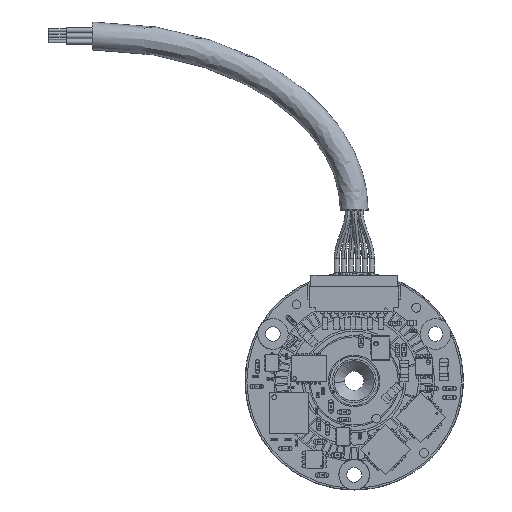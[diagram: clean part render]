
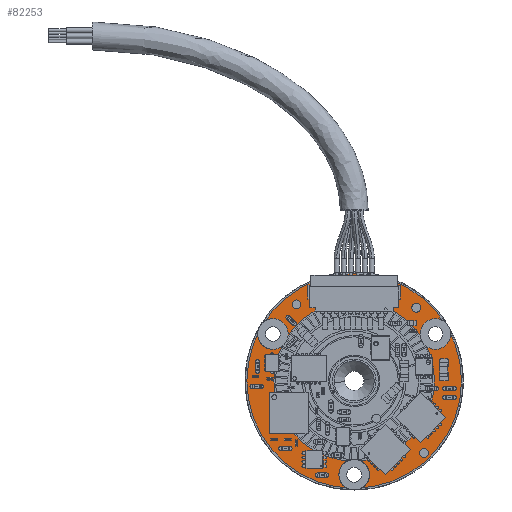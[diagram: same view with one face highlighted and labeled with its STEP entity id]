
A CAD part, front view. The second image highlights one B-rep face of the part: STEP entity #82253.
In plain terms, the highlighted planar face has unit normal (0, 1, 0).
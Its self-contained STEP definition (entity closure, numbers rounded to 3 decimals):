
#437 = CARTESIAN_POINT ( 'NONE',  ( 0., 2.17, 0. ) ) ;
#1159 = EDGE_LOOP ( 'NONE', ( #97126, #242628 ) ) ;
#6952 = EDGE_CURVE ( 'NONE', #189571, #253114, #309682, .T. ) ;
#7447 = DIRECTION ( 'NONE',  ( 0., 1., 0. ) ) ;
#8297 = FACE_BOUND ( 'NONE', #26257, .T. ) ;
#11054 = ORIENTED_EDGE ( 'NONE', *, *, #191313, .F. ) ;
#15512 = FACE_BOUND ( 'NONE', #153358, .T. ) ;
#19787 = EDGE_CURVE ( 'NONE', #334818, #306716, #46620, .T. ) ;
#20990 = VERTEX_POINT ( 'NONE', #204977 ) ;
#24848 = ORIENTED_EDGE ( 'NONE', *, *, #83299, .F. ) ;
#26257 = EDGE_LOOP ( 'NONE', ( #24848, #227710 ) ) ;
#31840 = CARTESIAN_POINT ( 'NONE',  ( 9.31, 2.17, 6.225 ) ) ;
#33127 = CARTESIAN_POINT ( 'NONE',  ( 0., 2.17, -10.75 ) ) ;
#35878 = CARTESIAN_POINT ( 'NONE',  ( 0., 2.17, -12.3 ) ) ;
#37442 = CARTESIAN_POINT ( 'NONE',  ( 0., 2.17, 0. ) ) ;
#39577 = CIRCLE ( 'NONE', #319441, 0.85 ) ;
#40810 = AXIS2_PLACEMENT_3D ( 'NONE', #53620, #360110, #194075 ) ;
#46620 = CIRCLE ( 'NONE', #128230, 0.85 ) ;
#48301 = DIRECTION ( 'NONE',  ( 0., 1., 0. ) ) ;
#52606 = CIRCLE ( 'NONE', #40810, 12.3 ) ;
#53620 = CARTESIAN_POINT ( 'NONE',  ( 0., 2.17, 0. ) ) ;
#55234 = AXIS2_PLACEMENT_3D ( 'NONE', #292563, #343649, #290701 ) ;
#60453 = AXIS2_PLACEMENT_3D ( 'NONE', #257379, #7447, #142654 ) ;
#60671 = DIRECTION ( 'NONE',  ( 0., 0., 1. ) ) ;
#61130 = DIRECTION ( 'NONE',  ( 0., 1., 0. ) ) ;
#63073 = CARTESIAN_POINT ( 'NONE',  ( -9.31, 2.17, 6.225 ) ) ;
#64892 = PLANE ( 'NONE',  #293276 ) ;
#66542 = EDGE_CURVE ( 'NONE', #20990, #341879, #202242, .T. ) ;
#73945 = CARTESIAN_POINT ( 'NONE',  ( -9.31, 2.17, 5.375 ) ) ;
#74179 = EDGE_CURVE ( 'NONE', #169406, #286798, #52606, .T. ) ;
#74516 = AXIS2_PLACEMENT_3D ( 'NONE', #249557, #273310, #297225 ) ;
#78560 = ORIENTED_EDGE ( 'NONE', *, *, #302005, .T. ) ;
#80865 = DIRECTION ( 'NONE',  ( 0., 0., 1. ) ) ;
#82253 = ADVANCED_FACE ( 'NONE', ( #347595, #99434, #8297, #263575, #15512 ), #64892, .T. ) ;
#83299 = EDGE_CURVE ( 'NONE', #306716, #334818, #200774, .T. ) ;
#97126 = ORIENTED_EDGE ( 'NONE', *, *, #309460, .F. ) ;
#99434 = FACE_BOUND ( 'NONE', #1159, .T. ) ;
#103735 = ORIENTED_EDGE ( 'NONE', *, *, #234724, .F. ) ;
#112591 = ORIENTED_EDGE ( 'NONE', *, *, #74179, .T. ) ;
#120182 = CARTESIAN_POINT ( 'NONE',  ( 0., 2.17, -9.9 ) ) ;
#126528 = EDGE_CURVE ( 'NONE', #253114, #189571, #356945, .T. ) ;
#128230 = AXIS2_PLACEMENT_3D ( 'NONE', #73945, #48301, #329340 ) ;
#129629 = VERTEX_POINT ( 'NONE', #120182 ) ;
#138295 = AXIS2_PLACEMENT_3D ( 'NONE', #179095, #312452, #60671 ) ;
#138664 = CIRCLE ( 'NONE', #74516, 0.85 ) ;
#139966 = CARTESIAN_POINT ( 'NONE',  ( 0., 2.17, 9.2 ) ) ;
#142004 = CIRCLE ( 'NONE', #60453, 12.3 ) ;
#142654 = DIRECTION ( 'NONE',  ( 0., 0., 1. ) ) ;
#144568 = DIRECTION ( 'NONE',  ( 0., 0., 1. ) ) ;
#147185 = CARTESIAN_POINT ( 'NONE',  ( 0., 2.17, 12.3 ) ) ;
#150812 = EDGE_LOOP ( 'NONE', ( #78560, #112591 ) ) ;
#153358 = EDGE_LOOP ( 'NONE', ( #340411, #266792 ) ) ;
#169406 = VERTEX_POINT ( 'NONE', #147185 ) ;
#177976 = DIRECTION ( 'NONE',  ( 0., 1., 0. ) ) ;
#179095 = CARTESIAN_POINT ( 'NONE',  ( 9.31, 2.17, 5.375 ) ) ;
#187392 = DIRECTION ( 'NONE',  ( 0., 1., 0. ) ) ;
#189571 = VERTEX_POINT ( 'NONE', #254605 ) ;
#191313 = EDGE_CURVE ( 'NONE', #268603, #129629, #336946, .T. ) ;
#194075 = DIRECTION ( 'NONE',  ( 0., 0., 1. ) ) ;
#200774 = CIRCLE ( 'NONE', #55234, 0.85 ) ;
#202242 = CIRCLE ( 'NONE', #138295, 0.85 ) ;
#204977 = CARTESIAN_POINT ( 'NONE',  ( 9.31, 2.17, 4.525 ) ) ;
#205358 = AXIS2_PLACEMENT_3D ( 'NONE', #437, #275928, #80865 ) ;
#214807 = CARTESIAN_POINT ( 'NONE',  ( 0., 2.17, -10.75 ) ) ;
#225396 = DIRECTION ( 'NONE',  ( 0., 0., 1. ) ) ;
#227710 = ORIENTED_EDGE ( 'NONE', *, *, #19787, .F. ) ;
#230221 = DIRECTION ( 'NONE',  ( 0., 1., 0. ) ) ;
#234724 = EDGE_CURVE ( 'NONE', #129629, #268603, #39577, .T. ) ;
#242628 = ORIENTED_EDGE ( 'NONE', *, *, #66542, .F. ) ;
#249557 = CARTESIAN_POINT ( 'NONE',  ( 9.31, 2.17, 5.375 ) ) ;
#253114 = VERTEX_POINT ( 'NONE', #139966 ) ;
#254605 = CARTESIAN_POINT ( 'NONE',  ( 0., 2.17, -9.2 ) ) ;
#255338 = AXIS2_PLACEMENT_3D ( 'NONE', #214807, #187392, #300553 ) ;
#257379 = CARTESIAN_POINT ( 'NONE',  ( 0., 2.17, 0. ) ) ;
#263575 = FACE_OUTER_BOUND ( 'NONE', #150812, .T. ) ;
#266792 = ORIENTED_EDGE ( 'NONE', *, *, #126528, .F. ) ;
#268603 = VERTEX_POINT ( 'NONE', #295901 ) ;
#273310 = DIRECTION ( 'NONE',  ( 0., 1., 0. ) ) ;
#275928 = DIRECTION ( 'NONE',  ( 0., 1., 0. ) ) ;
#280011 = CARTESIAN_POINT ( 'NONE',  ( 0., 2.17, 0. ) ) ;
#280382 = AXIS2_PLACEMENT_3D ( 'NONE', #280011, #61130, #225396 ) ;
#286798 = VERTEX_POINT ( 'NONE', #35878 ) ;
#290701 = DIRECTION ( 'NONE',  ( 0., 0., 1. ) ) ;
#292563 = CARTESIAN_POINT ( 'NONE',  ( -9.31, 2.17, 5.375 ) ) ;
#293276 = AXIS2_PLACEMENT_3D ( 'NONE', #37442, #177976, #345792 ) ;
#295901 = CARTESIAN_POINT ( 'NONE',  ( 0., 2.17, -11.6 ) ) ;
#297225 = DIRECTION ( 'NONE',  ( 0., 0., 1. ) ) ;
#300553 = DIRECTION ( 'NONE',  ( 0., 0., 1. ) ) ;
#302005 = EDGE_CURVE ( 'NONE', #286798, #169406, #142004, .T. ) ;
#306716 = VERTEX_POINT ( 'NONE', #63073 ) ;
#309460 = EDGE_CURVE ( 'NONE', #341879, #20990, #138664, .T. ) ;
#309682 = CIRCLE ( 'NONE', #280382, 9.2 ) ;
#312176 = CARTESIAN_POINT ( 'NONE',  ( -9.31, 2.17, 4.525 ) ) ;
#312452 = DIRECTION ( 'NONE',  ( 0., 1., 0. ) ) ;
#315463 = EDGE_LOOP ( 'NONE', ( #103735, #11054 ) ) ;
#319441 = AXIS2_PLACEMENT_3D ( 'NONE', #33127, #230221, #144568 ) ;
#329340 = DIRECTION ( 'NONE',  ( 0., 0., 1. ) ) ;
#334818 = VERTEX_POINT ( 'NONE', #312176 ) ;
#336946 = CIRCLE ( 'NONE', #255338, 0.85 ) ;
#340411 = ORIENTED_EDGE ( 'NONE', *, *, #6952, .F. ) ;
#341879 = VERTEX_POINT ( 'NONE', #31840 ) ;
#343649 = DIRECTION ( 'NONE',  ( 0., 1., 0. ) ) ;
#345792 = DIRECTION ( 'NONE',  ( 0., 0., 1. ) ) ;
#347595 = FACE_BOUND ( 'NONE', #315463, .T. ) ;
#356945 = CIRCLE ( 'NONE', #205358, 9.2 ) ;
#360110 = DIRECTION ( 'NONE',  ( 0., 1., 0. ) ) ;
